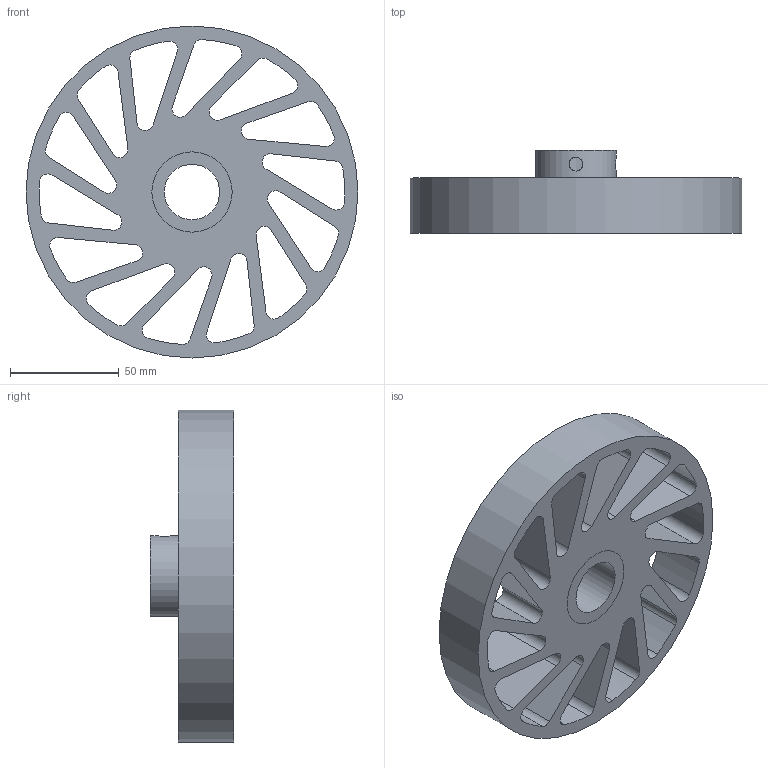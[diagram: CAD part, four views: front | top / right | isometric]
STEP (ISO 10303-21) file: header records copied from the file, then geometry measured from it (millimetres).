
FILE_DESCRIPTION(/* description */ (''),/* implementation_level */ '2;1');
FILE_NAME(/* name */ 'NCW-580-XXX-YYY.stp',/* time_stamp */ '2023-02-02T15:36:12-06:00',/* author */ ('AG'),/* organization */ ('Meridian Laboratory'),/* preprocessor_version */ 'ST-DEVELOPER v18.1',/* originating_system */ 'Autodesk Inventor 2022',/* authorisation */ '');
FILE_SCHEMA (('AUTOMOTIVE_DESIGN { 1 0 10303 214 3 1 1 }'));
Length unit declared in the file: inch
Products named in the file (1): NCW-540
Bounding box: 152.4 x 38.1 x 152.4 mm (x, y, z)
Volume: 253623.4 mm3; surface area: 78997 mm2
Topology: 2 solids, 2 shells, 94 faces, 276 edges, 186 vertices
Faces by surface type: cylinder 62, plane 32
Full cylindrical faces by diameter (mm): 6.35 x2, 25.425 x1, 36.83 x2, 152.4 x1
Entity records: 3518 total; most frequent: CARTESIAN_POINT 697, DIRECTION 576, ORIENTED_EDGE 552, EDGE_CURVE 276, AXIS2_PLACEMENT_3D 215, VERTEX_POINT 186, LINE 146, VECTOR 146
